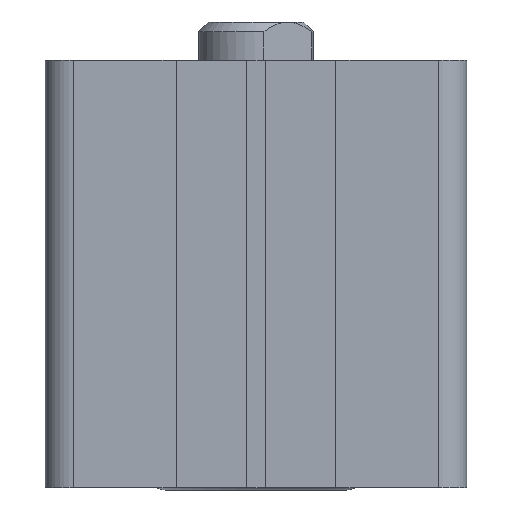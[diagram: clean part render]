
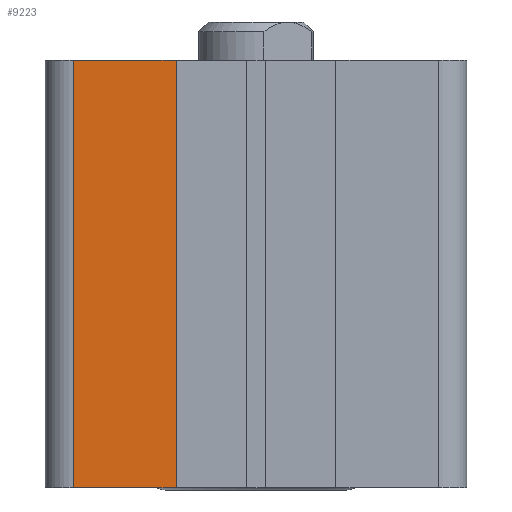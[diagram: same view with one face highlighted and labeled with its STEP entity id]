
A CAD part, front view. The second image highlights one B-rep face of the part: STEP entity #9223.
In plain terms, the highlighted planar face has unit normal (0, -1, 0).
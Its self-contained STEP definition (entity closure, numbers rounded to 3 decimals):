
#409 = DIRECTION ( 'NONE',  ( 0., 0., -1. ) ) ;
#648 = AXIS2_PLACEMENT_3D ( 'NONE', #1883, #17528, #6410 ) ;
#1298 = ORIENTED_EDGE ( 'NONE', *, *, #18846, .T. ) ;
#1447 = VERTEX_POINT ( 'NONE', #19156 ) ;
#1883 = CARTESIAN_POINT ( 'NONE',  ( -19., -22., 44.6 ) ) ;
#4773 = VECTOR ( 'NONE', #409, 1000. ) ;
#5043 = PLANE ( 'NONE',  #648 ) ;
#6241 = CARTESIAN_POINT ( 'NONE',  ( -19., -22., 44.6 ) ) ;
#6410 = DIRECTION ( 'NONE',  ( 0., 0., 1. ) ) ;
#6847 = LINE ( 'NONE', #8891, #7221 ) ;
#7221 = VECTOR ( 'NONE', #16611, 1000. ) ;
#7222 = EDGE_LOOP ( 'NONE', ( #7938, #7498, #7669, #1298 ) ) ;
#7498 = ORIENTED_EDGE ( 'NONE', *, *, #19816, .F. ) ;
#7669 = ORIENTED_EDGE ( 'NONE', *, *, #15204, .F. ) ;
#7938 = ORIENTED_EDGE ( 'NONE', *, *, #15235, .T. ) ;
#8107 = FACE_OUTER_BOUND ( 'NONE', #7222, .T. ) ;
#8617 = DIRECTION ( 'NONE',  ( 1., 0., 0. ) ) ;
#8891 = CARTESIAN_POINT ( 'NONE',  ( -8.35, -22., 44.6 ) ) ;
#9223 = ADVANCED_FACE ( 'NONE', ( #8107 ), #5043, .F. ) ;
#9551 = VERTEX_POINT ( 'NONE', #15961 ) ;
#9880 = CARTESIAN_POINT ( 'NONE',  ( -8.35, -22., 44.6 ) ) ;
#10805 = VERTEX_POINT ( 'NONE', #11151 ) ;
#11151 = CARTESIAN_POINT ( 'NONE',  ( -8.35, -22., 0. ) ) ;
#12797 = LINE ( 'NONE', #17778, #13107 ) ;
#13107 = VECTOR ( 'NONE', #13294, 1000. ) ;
#13279 = LINE ( 'NONE', #16469, #20085 ) ;
#13294 = DIRECTION ( 'NONE',  ( 1., 0., 0. ) ) ;
#15204 = EDGE_CURVE ( 'NONE', #1447, #20046, #13279, .T. ) ;
#15235 = EDGE_CURVE ( 'NONE', #9551, #10805, #12797, .T. ) ;
#15961 = CARTESIAN_POINT ( 'NONE',  ( -19., -22., 0. ) ) ;
#16469 = CARTESIAN_POINT ( 'NONE',  ( -19., -22., 44.6 ) ) ;
#16611 = DIRECTION ( 'NONE',  ( 0., 0., -1. ) ) ;
#17528 = DIRECTION ( 'NONE',  ( 0., 1., 0. ) ) ;
#17554 = LINE ( 'NONE', #6241, #4773 ) ;
#17778 = CARTESIAN_POINT ( 'NONE',  ( -19., -22., 0. ) ) ;
#18846 = EDGE_CURVE ( 'NONE', #1447, #9551, #17554, .T. ) ;
#19156 = CARTESIAN_POINT ( 'NONE',  ( -19., -22., 44.6 ) ) ;
#19816 = EDGE_CURVE ( 'NONE', #20046, #10805, #6847, .T. ) ;
#20046 = VERTEX_POINT ( 'NONE', #9880 ) ;
#20085 = VECTOR ( 'NONE', #8617, 1000. ) ;
